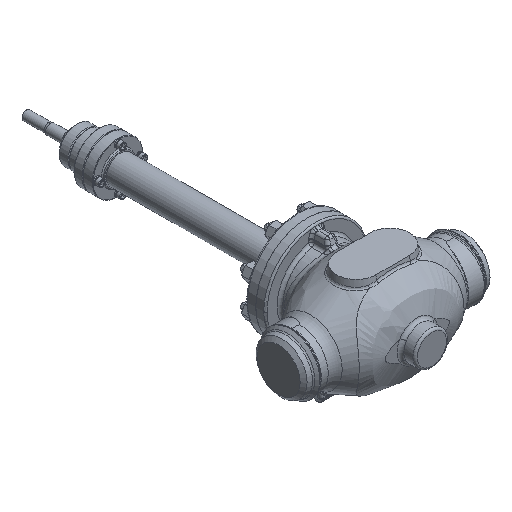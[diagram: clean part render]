
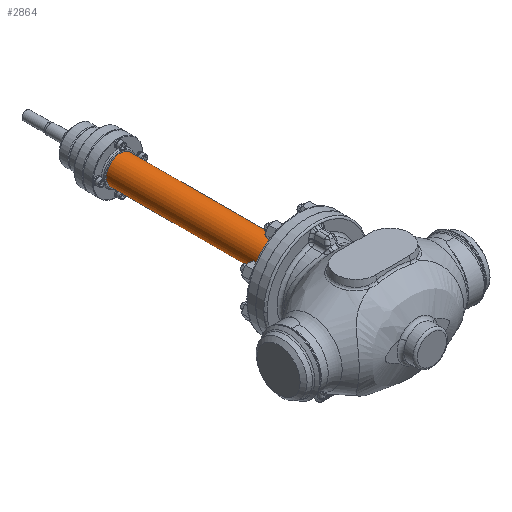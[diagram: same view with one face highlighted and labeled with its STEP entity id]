
A CAD part, isometric view. The second image highlights one B-rep face of the part: STEP entity #2864.
In plain terms, the highlighted cylindrical face has radius 25 mm (diameter 50 mm), a full revolution.
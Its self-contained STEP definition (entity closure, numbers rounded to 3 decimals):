
#1612=CYLINDRICAL_SURFACE('',#11631,25.);
#2864=ADVANCED_FACE('',(#3687,#3688),#1612,.T.);
#3687=FACE_BOUND('',#4440,.T.);
#3688=FACE_BOUND('',#4441,.T.);
#4440=EDGE_LOOP('',(#6504));
#4441=EDGE_LOOP('',(#6505));
#6504=ORIENTED_EDGE('',*,*,#9592,.F.);
#6505=ORIENTED_EDGE('',*,*,#9591,.T.);
#8356=VERTEX_POINT('',#20731);
#8357=VERTEX_POINT('',#20734);
#9591=EDGE_CURVE('',#8356,#8356,#10640,.T.);
#9592=EDGE_CURVE('',#8357,#8357,#10641,.T.);
#10640=CIRCLE('',#11628,25.);
#10641=CIRCLE('',#11630,25.);
#11628=AXIS2_PLACEMENT_3D('',#20730,#13933,#13934);
#11630=AXIS2_PLACEMENT_3D('',#20733,#13937,#13938);
#11631=AXIS2_PLACEMENT_3D('',#20735,#13939,#13940);
#13933=DIRECTION('',(0.,-1.,0.));
#13934=DIRECTION('',(0.,0.,-1.));
#13937=DIRECTION('',(0.,-1.,0.));
#13938=DIRECTION('',(0.,0.,-1.));
#13939=DIRECTION('',(0.,1.,0.));
#13940=DIRECTION('',(0.,0.,-1.));
#20730=CARTESIAN_POINT('',(0.,450.25,0.));
#20731=CARTESIAN_POINT('',(0.,450.25,-25.));
#20733=CARTESIAN_POINT('',(0.,123.25,0.));
#20734=CARTESIAN_POINT('',(0.,123.25,-25.));
#20735=CARTESIAN_POINT('',(0.,58.25,0.));
